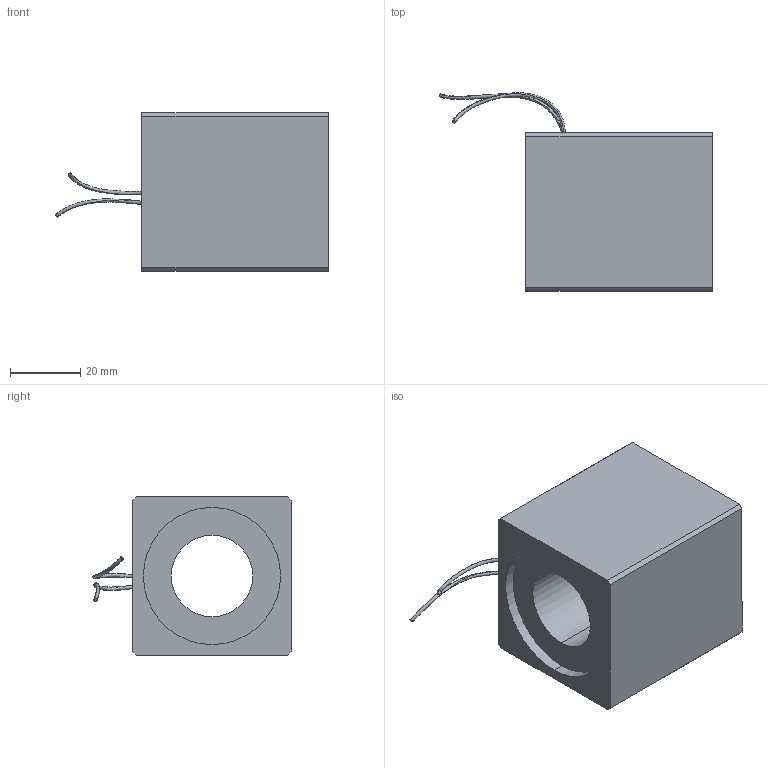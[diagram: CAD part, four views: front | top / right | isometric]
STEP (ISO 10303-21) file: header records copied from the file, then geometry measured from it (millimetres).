
FILE_DESCRIPTION (( 'STEP AP214' ), '1' );
FILE_NAME ('MLS45_2x50.STEP', '2015-07-17T05:25:51', ( '' ), ( '' ), 'SwSTEP 2.0', 'SolidWorks 2014', '' );
FILE_SCHEMA (( 'AUTOMOTIVE_DESIGN' ));
Length unit declared in the file: millimetre
Products named in the file (2): MLS45_2x50
Bounding box: 77.53 x 56.36 x 45 mm (x, y, z)
Volume: 82743.8 mm3; surface area: 17545.8 mm2
Topology: 7 solids, 7 shells, 58 faces, 114 edges, 76 vertices
Faces by surface type: plane 28, cylinder 24, bspline 4, cone 2
Entity records: 2699 total; most frequent: CARTESIAN_POINT 788, DIRECTION 274, ORIENTED_EDGE 228, EDGE_CURVE 114, AXIS2_PLACEMENT_3D 112, VERTEX_POINT 76, EDGE_LOOP 66, UNCERTAINTY_MEASURE_WITH_UNIT 61
